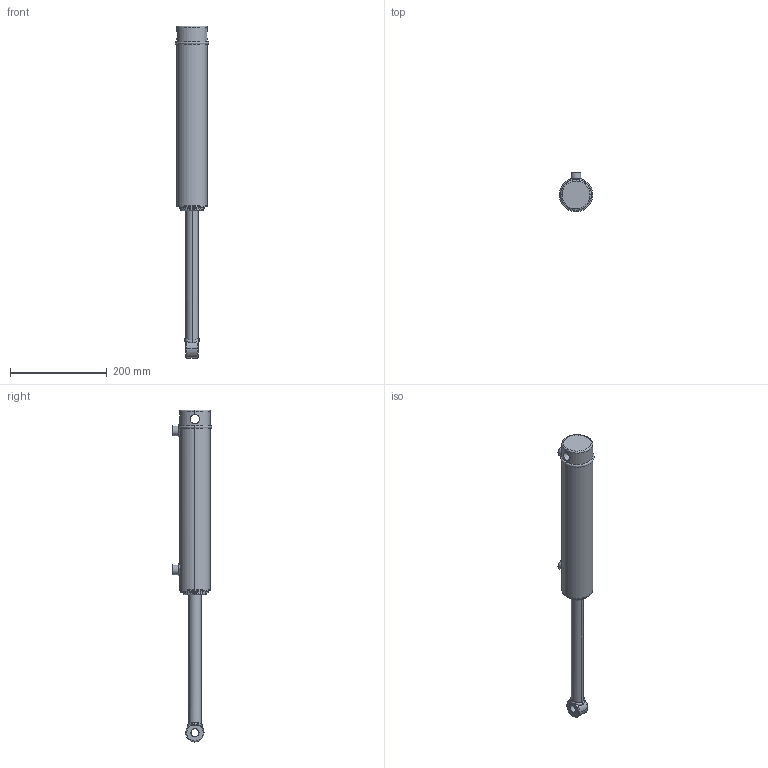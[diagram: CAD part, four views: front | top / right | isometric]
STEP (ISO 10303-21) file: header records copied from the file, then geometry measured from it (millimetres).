
FILE_DESCRIPTION (( 'STEP AP203' ), '1' );
FILE_NAME ('SB-C200100X254 (10) extended.STEP', '2014-12-01T23:43:38', ( '' ), ( '' ), 'SwSTEP 2.0', 'SolidWorks 2014', '' );
FILE_SCHEMA (( 'CONFIG_CONTROL_DESIGN' ));
Length unit declared in the file: millimetre
Products named in the file (5): SB-C2 10 SPARE; SB-C200100X254 (10) extended; SB-C200100X254 (10) BODY; 2 inch circlip
Assembly tree (4 placements, depth 3):
  SB-C200100X254 (10) extended
    SB-C200100X254 (10) BODY
    2 inch circlip
    SB-C2 10 SPARE
      SB-C2 10 SPARE
Bounding box: 69.5 x 81.5 x 685 mm (x, y, z)
Volume: 1258660.7 mm3; surface area: 145342.7 mm2
Topology: 3 solids, 3 shells, 130 faces, 324 edges, 203 vertices
Faces by surface type: cylinder 51, bspline 25, plane 25, torus 21, cone 8
Entity records: 9343 total; most frequent: CARTESIAN_POINT 5899, ORIENTED_EDGE 640, DIRECTION 595, EDGE_CURVE 320, AXIS2_PLACEMENT_3D 263, VERTEX_POINT 203, CIRCLE 150, EDGE_LOOP 149
